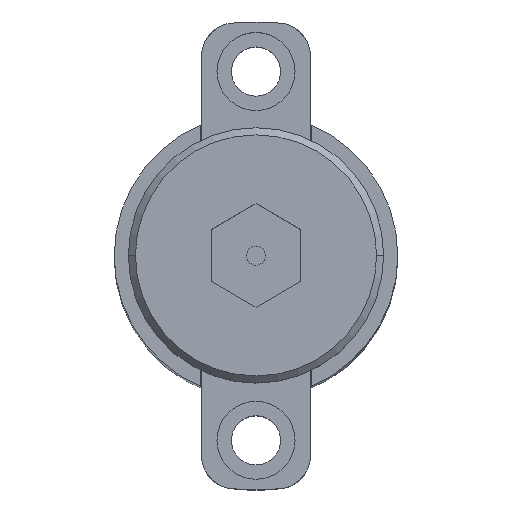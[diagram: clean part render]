
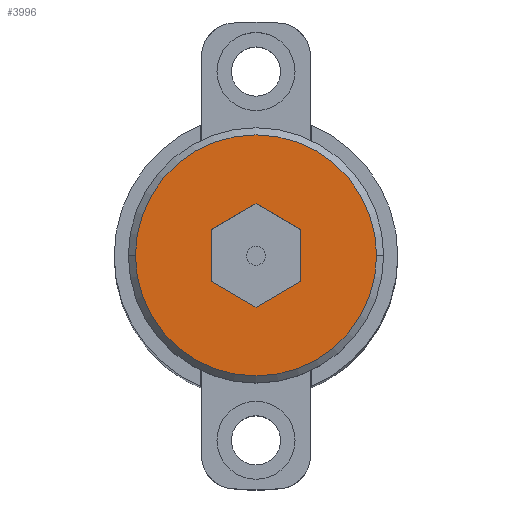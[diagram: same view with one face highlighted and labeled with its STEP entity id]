
A CAD part, top view. The second image highlights one B-rep face of the part: STEP entity #3996.
In plain terms, the highlighted planar face has unit normal (0, 0, 1).
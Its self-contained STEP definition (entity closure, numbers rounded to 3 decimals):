
#13 = DIRECTION ( 'NONE',  ( 0., -1., 0. ) ) ;
#73 = EDGE_CURVE ( 'NONE', #10369, #10748, #925, .T. ) ;
#429 = VECTOR ( 'NONE', #5800, 1000. ) ;
#567 = CARTESIAN_POINT ( 'NONE',  ( 0., 0., 0. ) ) ;
#588 = CARTESIAN_POINT ( 'NONE',  ( 9.5, -5.485, 0. ) ) ;
#743 = ORIENTED_EDGE ( 'NONE', *, *, #2878, .T. ) ;
#785 = DIRECTION ( 'NONE',  ( 0.866, -0.5, 0. ) ) ;
#925 = LINE ( 'NONE', #1344, #9822 ) ;
#945 = CARTESIAN_POINT ( 'NONE',  ( 0., 0., 0. ) ) ;
#997 = LINE ( 'NONE', #13947, #3704 ) ;
#1148 = DIRECTION ( 'NONE',  ( 0., 0., -1. ) ) ;
#1180 = LINE ( 'NONE', #5086, #7702 ) ;
#1344 = CARTESIAN_POINT ( 'NONE',  ( 9.5, -5.485, 0. ) ) ;
#1384 = CARTESIAN_POINT ( 'NONE',  ( 0., -10.97, 0. ) ) ;
#1743 = DIRECTION ( 'NONE',  ( 1., 0., 0. ) ) ;
#1972 = LINE ( 'NONE', #14718, #7769 ) ;
#2108 = DIRECTION ( 'NONE',  ( 1., 0., 0. ) ) ;
#2595 = AXIS2_PLACEMENT_3D ( 'NONE', #5751, #1148, #9279 ) ;
#2878 = EDGE_CURVE ( 'NONE', #14202, #3077, #12499, .T. ) ;
#3077 = VERTEX_POINT ( 'NONE', #14276 ) ;
#3154 = ORIENTED_EDGE ( 'NONE', *, *, #73, .F. ) ;
#3398 = VECTOR ( 'NONE', #8341, 1000. ) ;
#3643 = VERTEX_POINT ( 'NONE', #13137 ) ;
#3704 = VECTOR ( 'NONE', #13, 1000. ) ;
#3996 = ADVANCED_FACE ( 'NONE', ( #11768, #11050 ), #15066, .F. ) ;
#4137 = AXIS2_PLACEMENT_3D ( 'NONE', #567, #8701, #1743 ) ;
#4162 = EDGE_CURVE ( 'NONE', #12042, #10369, #6850, .T. ) ;
#5086 = CARTESIAN_POINT ( 'NONE',  ( 9.5, 5.485, 0. ) ) ;
#5321 = AXIS2_PLACEMENT_3D ( 'NONE', #945, #9082, #2108 ) ;
#5751 = CARTESIAN_POINT ( 'NONE',  ( 0., 25.5, 0. ) ) ;
#5800 = DIRECTION ( 'NONE',  ( -0.866, -0.5, 0. ) ) ;
#6298 = EDGE_LOOP ( 'NONE', ( #743, #11941 ) ) ;
#6850 = LINE ( 'NONE', #1384, #3398 ) ;
#6959 = CARTESIAN_POINT ( 'NONE',  ( 0., 10.97, 0. ) ) ;
#7314 = ORIENTED_EDGE ( 'NONE', *, *, #9065, .F. ) ;
#7504 = CARTESIAN_POINT ( 'NONE',  ( -9.5, -5.485, 0. ) ) ;
#7702 = VECTOR ( 'NONE', #12040, 1000. ) ;
#7755 = EDGE_CURVE ( 'NONE', #3643, #8201, #9717, .T. ) ;
#7769 = VECTOR ( 'NONE', #785, 1000. ) ;
#8201 = VERTEX_POINT ( 'NONE', #11785 ) ;
#8341 = DIRECTION ( 'NONE',  ( 0.866, 0.5, 0. ) ) ;
#8701 = DIRECTION ( 'NONE',  ( 0., 0., 1. ) ) ;
#8737 = ORIENTED_EDGE ( 'NONE', *, *, #7755, .F. ) ;
#8898 = ORIENTED_EDGE ( 'NONE', *, *, #4162, .F. ) ;
#9065 = EDGE_CURVE ( 'NONE', #9872, #12042, #1972, .T. ) ;
#9082 = DIRECTION ( 'NONE',  ( 0., 0., 1. ) ) ;
#9279 = DIRECTION ( 'NONE',  ( -1., 0., 0. ) ) ;
#9717 = LINE ( 'NONE', #6959, #429 ) ;
#9822 = VECTOR ( 'NONE', #14146, 1000. ) ;
#9872 = VERTEX_POINT ( 'NONE', #7504 ) ;
#10369 = VERTEX_POINT ( 'NONE', #588 ) ;
#10748 = VERTEX_POINT ( 'NONE', #15089 ) ;
#10877 = CIRCLE ( 'NONE', #4137, 25.5 ) ;
#11050 = FACE_OUTER_BOUND ( 'NONE', #6298, .T. ) ;
#11584 = EDGE_CURVE ( 'NONE', #8201, #9872, #997, .T. ) ;
#11768 = FACE_BOUND ( 'NONE', #14072, .T. ) ;
#11785 = CARTESIAN_POINT ( 'NONE',  ( -9.5, 5.485, 0. ) ) ;
#11842 = EDGE_CURVE ( 'NONE', #10748, #3643, #1180, .T. ) ;
#11941 = ORIENTED_EDGE ( 'NONE', *, *, #14933, .T. ) ;
#12040 = DIRECTION ( 'NONE',  ( -0.866, 0.5, 0. ) ) ;
#12042 = VERTEX_POINT ( 'NONE', #14697 ) ;
#12499 = CIRCLE ( 'NONE', #5321, 25.5 ) ;
#12823 = ORIENTED_EDGE ( 'NONE', *, *, #11584, .F. ) ;
#13137 = CARTESIAN_POINT ( 'NONE',  ( 0., 10.97, 0. ) ) ;
#13947 = CARTESIAN_POINT ( 'NONE',  ( -9.5, 5.485, 0. ) ) ;
#14072 = EDGE_LOOP ( 'NONE', ( #8737, #14223, #3154, #8898, #7314, #12823 ) ) ;
#14146 = DIRECTION ( 'NONE',  ( 0., 1., 0. ) ) ;
#14202 = VERTEX_POINT ( 'NONE', #14904 ) ;
#14223 = ORIENTED_EDGE ( 'NONE', *, *, #11842, .F. ) ;
#14276 = CARTESIAN_POINT ( 'NONE',  ( 25.5, 0., 0. ) ) ;
#14697 = CARTESIAN_POINT ( 'NONE',  ( 0., -10.97, 0. ) ) ;
#14718 = CARTESIAN_POINT ( 'NONE',  ( -9.5, -5.485, 0. ) ) ;
#14904 = CARTESIAN_POINT ( 'NONE',  ( -25.5, 0., 0. ) ) ;
#14933 = EDGE_CURVE ( 'NONE', #3077, #14202, #10877, .T. ) ;
#15066 = PLANE ( 'NONE',  #2595 ) ;
#15089 = CARTESIAN_POINT ( 'NONE',  ( 9.5, 5.485, 0. ) ) ;
